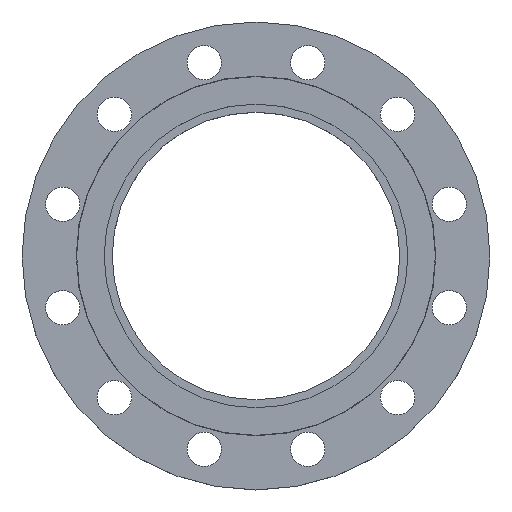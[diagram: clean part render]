
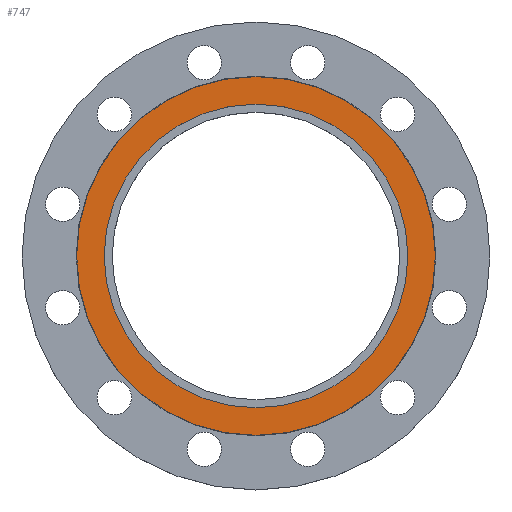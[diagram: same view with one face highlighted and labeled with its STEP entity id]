
A CAD part, top view. The second image highlights one B-rep face of the part: STEP entity #747.
In plain terms, the highlighted planar face has unit normal (0, 0, 1).
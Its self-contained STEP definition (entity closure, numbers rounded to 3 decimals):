
#70 = CARTESIAN_POINT ( 'NONE',  ( -172.5, 0., 0. ) ) ;
#87 = CARTESIAN_POINT ( 'NONE',  ( 172.5, 0., 0. ) ) ;
#166 = EDGE_CURVE ( 'NONE', #1321, #1303, #1033, .T. ) ;
#281 = DIRECTION ( 'NONE',  ( -1., 0., 0. ) ) ;
#282 = DIRECTION ( 'NONE',  ( 0., 0., -1. ) ) ;
#284 = CARTESIAN_POINT ( 'NONE',  ( 0., 0., 0. ) ) ;
#353 = CARTESIAN_POINT ( 'NONE',  ( 146., 0., 0. ) ) ;
#356 = AXIS2_PLACEMENT_3D ( 'NONE', #569, #568, #567 ) ;
#357 = CIRCLE ( 'NONE', #356, 172.5 ) ;
#388 = EDGE_CURVE ( 'NONE', #967, #1106, #942, .T. ) ;
#489 = CARTESIAN_POINT ( 'NONE',  ( -146., 0., 0. ) ) ;
#556 = DIRECTION ( 'NONE',  ( 1., 0., 0. ) ) ;
#557 = DIRECTION ( 'NONE',  ( 0., 0., 1. ) ) ;
#559 = CARTESIAN_POINT ( 'NONE',  ( 0., 0., 0. ) ) ;
#560 = PLANE ( 'NONE',  #1019 ) ;
#561 = FACE_BOUND ( 'NONE', #1295, .T. ) ;
#562 = FACE_OUTER_BOUND ( 'NONE', #1300, .T. ) ;
#567 = DIRECTION ( 'NONE',  ( -1., 0., 0. ) ) ;
#568 = DIRECTION ( 'NONE',  ( 0., 0., -1. ) ) ;
#569 = CARTESIAN_POINT ( 'NONE',  ( 0., 0., 0. ) ) ;
#721 = EDGE_CURVE ( 'NONE', #1303, #1321, #357, .T. ) ;
#736 = DIRECTION ( 'NONE',  ( -1., 0., 0. ) ) ;
#737 = DIRECTION ( 'NONE',  ( 0., 0., -1. ) ) ;
#738 = CARTESIAN_POINT ( 'NONE',  ( 0., 0., 0. ) ) ;
#747 = ADVANCED_FACE ( 'NONE', ( #562, #561 ), #560, .T. ) ;
#799 = CIRCLE ( 'NONE', #841, 146. ) ;
#841 = AXIS2_PLACEMENT_3D ( 'NONE', #284, #282, #281 ) ;
#859 = DIRECTION ( 'NONE',  ( -1., 0., 0. ) ) ;
#860 = DIRECTION ( 'NONE',  ( 0., 0., -1. ) ) ;
#861 = CARTESIAN_POINT ( 'NONE',  ( 0., 0., 0. ) ) ;
#942 = CIRCLE ( 'NONE', #959, 146. ) ;
#959 = AXIS2_PLACEMENT_3D ( 'NONE', #738, #737, #736 ) ;
#967 = VERTEX_POINT ( 'NONE', #489 ) ;
#1019 = AXIS2_PLACEMENT_3D ( 'NONE', #559, #557, #556 ) ;
#1030 = AXIS2_PLACEMENT_3D ( 'NONE', #861, #860, #859 ) ;
#1033 = CIRCLE ( 'NONE', #1030, 172.5 ) ;
#1106 = VERTEX_POINT ( 'NONE', #353 ) ;
#1150 = ORIENTED_EDGE ( 'NONE', *, *, #166, .F. ) ;
#1151 = ORIENTED_EDGE ( 'NONE', *, *, #721, .F. ) ;
#1152 = ORIENTED_EDGE ( 'NONE', *, *, #388, .T. ) ;
#1153 = ORIENTED_EDGE ( 'NONE', *, *, #1248, .T. ) ;
#1248 = EDGE_CURVE ( 'NONE', #1106, #967, #799, .T. ) ;
#1295 = EDGE_LOOP ( 'NONE', ( #1152, #1153 ) ) ;
#1300 = EDGE_LOOP ( 'NONE', ( #1150, #1151 ) ) ;
#1303 = VERTEX_POINT ( 'NONE', #87 ) ;
#1321 = VERTEX_POINT ( 'NONE', #70 ) ;
